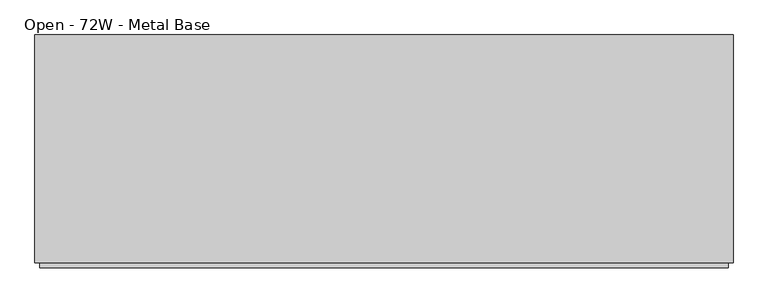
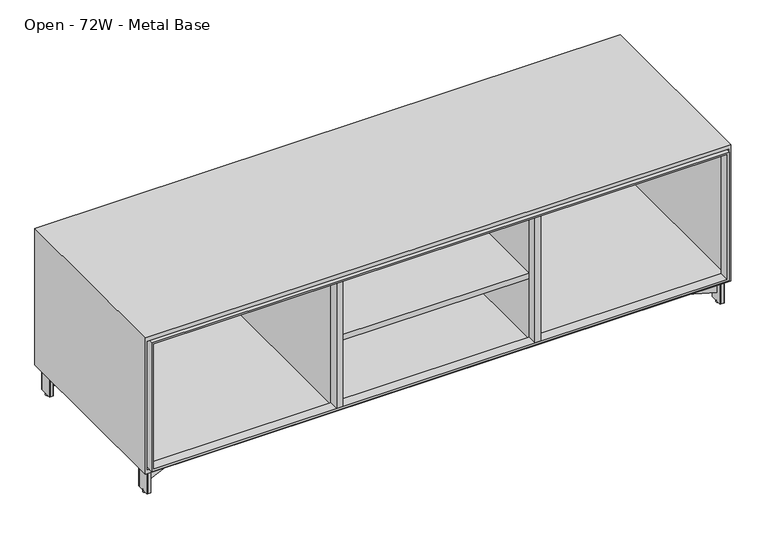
"""IFC4 building model written with IfcOpenShell, lengths in millimetres: furniture geometry, Steelcase Coalesse - Exponents - Storage - Credenza - 21H : Open - 72W - Metal Base."""

from ifc_helpers import new_model, si_unit, point, frame, frame_2d, origin, origin_with_axes, place, context, project, spatial, polyline, circle_curve, trimmed, segment, composite_curve, outline, extrude, faceted_brep, source, transform, mapped, element, save


def open_72w_metal_base_4dff3919(model_context):
    return source(origin(), model_context, "Body", "SolidModel", [
        faceted_brep([(6.35, 31.75, 520.7), (6.35, 31.75, 95.25), (6.35, 622.3, 95.25), (6.35, 622.3, 520.7), (1822.45, 622.3, 95.25), (1822.45, 622.3, 520.7), (1822.45, 31.75, 95.25), (1822.45, 31.75, 520.7), (0.0, 31.75, 82.55), (1828.8, 31.75, 82.55), (1828.8, 31.75, 533.4), (0.0, 31.75, 533.4), (1828.8, 628.65, 82.55), (1828.8, 628.65, 533.4), (0.0, 628.65, 82.55), (0.0, 628.65, 533.4)], [[[0, 1, 2, 3]], [[3, 2, 4, 5]], [[5, 4, 6, 7]], [[8, 9, 10, 11], [7, 6, 1, 0]], [[10, 9, 12, 13]], [[13, 12, 14, 15]], [[15, 14, 8, 11]], [[7, 0, 3, 5]], [[10, 13, 15, 11]], [[1, 6, 4, 2]], [[12, 9, 8, 14]]]),
        extrude(outline(composite_curve([segment(polyline([(1805.1506426, 615.95), (1814.322, 615.95)]), True, "CONTINUOUS"), segment(trimmed(circle_curve(frame_2d((1814.322, 614.172)), 1.778), [point((1814.322, 615.95))], [point((1816.1, 614.172))], False, "CARTESIAN"), True, "CONTINUOUS"), segment(polyline([(1816.1, 614.172), (1816.1, 572.9986)]), True, "CONTINUOUS"), segment(trimmed(circle_curve(frame_2d((1814.322, 572.9986)), 1.778), [point((1816.1, 572.9986))], [point((1814.322, 571.2206))], False, "CARTESIAN"), True, "CONTINUOUS"), segment(polyline([(1814.322, 571.2206), (1805.1948916, 571.2206)]), True, "CONTINUOUS"), segment(trimmed(circle_curve(frame_2d((1805.1948916, 573.0154916)), 1.7948916), [point((1805.1948916, 571.2206))], [point((1803.4, 573.0154916))], False, "CARTESIAN"), True, "CONTINUOUS"), segment(polyline([(1803.4, 573.0154916), (1803.4, 614.1993574)]), True, "CONTINUOUS"), segment(trimmed(circle_curve(frame_2d((1805.1506426, 614.1993574)), 1.7506426), [point((1803.4, 614.1993574))], [point((1805.1506426, 615.95))], False, "CARTESIAN"), True, "CONTINUOUS")], self_intersect=False)), frame((0.0, 0.0, 6.35), z_axis=(0.0, 0.0, 1.0), x_axis=(1.0, 0.0, 0.0)), (0.0, 0.0, 1.0), 73.4568),
        extrude(outline(composite_curve([segment(polyline([(1805.1506426, 88.9), (1814.322, 88.9)]), True, "CONTINUOUS"), segment(trimmed(circle_curve(frame_2d((1814.322, 87.122)), 1.778), [point((1814.322, 88.9))], [point((1816.1, 87.122))], False, "CARTESIAN"), True, "CONTINUOUS"), segment(polyline([(1816.1, 87.122), (1816.1, 45.9486)]), True, "CONTINUOUS"), segment(trimmed(circle_curve(frame_2d((1814.322, 45.9486)), 1.778), [point((1816.1, 45.9486))], [point((1814.322, 44.1706))], False, "CARTESIAN"), True, "CONTINUOUS"), segment(polyline([(1814.322, 44.1706), (1805.1948916, 44.1706)]), True, "CONTINUOUS"), segment(trimmed(circle_curve(frame_2d((1805.1948916, 45.9654916)), 1.7948916), [point((1805.1948916, 44.1706))], [point((1803.4, 45.9654916))], False, "CARTESIAN"), True, "CONTINUOUS"), segment(polyline([(1803.4, 45.9654916), (1803.4, 87.1493574)]), True, "CONTINUOUS"), segment(trimmed(circle_curve(frame_2d((1805.1506426, 87.1493574)), 1.7506426), [point((1803.4, 87.1493574))], [point((1805.1506426, 88.9))], False, "CARTESIAN"), True, "CONTINUOUS")], self_intersect=False)), frame((0.0, 0.0, 6.35), z_axis=(0.0, 0.0, 1.0), x_axis=(1.0, 0.0, 0.0)), (0.0, 0.0, 1.0), 73.4568),
        extrude(outline(composite_curve([segment(trimmed(circle_curve(frame_2d((1809.75, 593.5667033)), 6.35), [point((1809.75, 599.9167033))], [point((1809.75, 587.2167033))], False, "CARTESIAN"), True, "CONTINUOUS"), segment(trimmed(circle_curve(frame_2d((1809.75, 593.5667033)), 6.35), [point((1809.75, 587.2167033))], [point((1809.75, 599.9167033))], False, "CARTESIAN"), True, "CONTINUOUS")], self_intersect=False)), origin_with_axes(), (0.0, 0.0, 1.0), 6.35),
        extrude(outline(composite_curve([segment(trimmed(circle_curve(frame_2d((1809.75, 66.7867854)), 6.35), [point((1809.75, 73.1367854))], [point((1809.75, 60.4367854))], False, "CARTESIAN"), True, "CONTINUOUS"), segment(trimmed(circle_curve(frame_2d((1809.75, 66.7867854)), 6.35), [point((1809.75, 60.4367854))], [point((1809.75, 73.1367854))], False, "CARTESIAN"), True, "CONTINUOUS")], self_intersect=False)), origin_with_axes(), (0.0, 0.0, 1.0), 6.35),
        extrude(outline(polyline([(1270.0, 379.0696809), (1270.0, 277.4696809), (1168.4, 277.4696809), (1168.4, 379.0696809), (1270.0, 379.0696809)])), frame((0.0, 0.0, 79.8068), z_axis=(0.0, 0.0, 1.0), x_axis=(1.0, 0.0, 0.0)), (0.0, 0.0, 1.0), 2.7432),
        extrude(outline(polyline([(520.7, 1816.1), (520.7, 12.7), (95.25, 12.7), (95.25, 1816.1), (520.7, 1816.1)]), holes=[polyline([(514.35, 1809.75), (101.6, 1809.75), (101.6, 19.05), (514.35, 19.05), (514.35, 1809.75)])]), frame((0.0, 19.05, 0.0), z_axis=(0.0, 1.0, 0.0), x_axis=(0.0, 0.0, 1.0)), (0.0, 0.0, 1.0), 31.75),
        extrude(outline(composite_curve([segment(polyline([(1211.4256426, 349.25), (1226.947, 349.25)]), True, "CONTINUOUS"), segment(trimmed(circle_curve(frame_2d((1226.947, 347.472)), 1.778), [point((1226.947, 349.25))], [point((1228.725, 347.472))], False, "CARTESIAN"), True, "CONTINUOUS"), segment(polyline([(1228.725, 347.472), (1228.725, 312.928)]), True, "CONTINUOUS"), segment(trimmed(circle_curve(frame_2d((1226.947, 312.928)), 1.778), [point((1228.725, 312.928))], [point((1226.947, 311.15))], False, "CARTESIAN"), True, "CONTINUOUS"), segment(polyline([(1226.947, 311.15), (1211.4698916, 311.15)]), True, "CONTINUOUS"), segment(trimmed(circle_curve(frame_2d((1211.4698916, 312.9448916)), 1.7948916), [point((1211.4698916, 311.15))], [point((1209.675, 312.9448916))], False, "CARTESIAN"), True, "CONTINUOUS"), segment(polyline([(1209.675, 312.9448916), (1209.675, 347.4993574)]), True, "CONTINUOUS"), segment(trimmed(circle_curve(frame_2d((1211.4256426, 347.4993574)), 1.7506426), [point((1209.675, 347.4993574))], [point((1211.4256426, 349.25))], False, "CARTESIAN"), True, "CONTINUOUS")], self_intersect=False)), frame((0.0, 0.0, 6.35), z_axis=(0.0, 0.0, 1.0), x_axis=(1.0, 0.0, 0.0)), (0.0, 0.0, 1.0), 73.4568),
        extrude(outline(polyline([(1220.4800308, 345.280854), (1803.4, 598.591626), (1803.4, 577.8206777), (1233.5741031, 330.2), (1803.4, 82.5793223), (1803.4, 61.808374), (1220.777267, 314.9899805), (1227.2101738, 329.7934165), (1220.4800308, 345.280854)])), frame((0.0, 0.0, 34.925), z_axis=(0.0, 0.0, 1.0), x_axis=(1.0, 0.0, 0.0)), (0.0, 0.0, 1.0), 44.8818),
        extrude(outline(polyline([(1822.45, 520.7), (1720.85, 520.7), (1720.85, 622.3), (1822.45, 622.3), (1822.45, 520.7)])), frame((0.0, 0.0, 79.8068), z_axis=(0.0, 0.0, 1.0), x_axis=(1.0, 0.0, 0.0)), (0.0, 0.0, 1.0), 2.7432),
        extrude(outline(polyline([(1822.45, 139.7), (1822.45, 38.1), (1720.85, 38.1), (1720.85, 139.7), (1822.45, 139.7)])), frame((0.0, 0.0, 79.8068), z_axis=(0.0, 0.0, 1.0), x_axis=(1.0, 0.0, 0.0)), (0.0, 0.0, 1.0), 2.7432),
        extrude(outline(composite_curve([segment(trimmed(circle_curve(frame_2d((1219.0250692, 330.5590189)), 6.35), [point((1219.0250692, 336.9090189))], [point((1219.0250692, 324.2090189))], False, "CARTESIAN"), True, "CONTINUOUS"), segment(trimmed(circle_curve(frame_2d((1219.0250692, 330.5590189)), 6.35), [point((1219.0250692, 324.2090189))], [point((1219.0250692, 336.9090189))], False, "CARTESIAN"), True, "CONTINUOUS")], self_intersect=False)), origin_with_axes(), (0.0, 0.0, 1.0), 6.35),
        extrude(outline(composite_curve([segment(trimmed(circle_curve(frame_2d((23.6493574, 614.1993574)), 1.7506426), [point((23.6493574, 615.95))], [point((25.4, 614.1993574))], False, "CARTESIAN"), True, "CONTINUOUS"), segment(polyline([(25.4, 614.1993574), (25.4, 573.0154916)]), True, "CONTINUOUS"), segment(trimmed(circle_curve(frame_2d((23.6051084, 573.0154916)), 1.7948916), [point((25.4, 573.0154916))], [point((23.6051084, 571.2206))], False, "CARTESIAN"), True, "CONTINUOUS"), segment(polyline([(23.6051084, 571.2206), (14.478, 571.2206)]), True, "CONTINUOUS"), segment(trimmed(circle_curve(frame_2d((14.478, 572.9986)), 1.778), [point((14.478, 571.2206))], [point((12.7, 572.9986))], False, "CARTESIAN"), True, "CONTINUOUS"), segment(polyline([(12.7, 572.9986), (12.7, 614.172)]), True, "CONTINUOUS"), segment(trimmed(circle_curve(frame_2d((14.478, 614.172)), 1.778), [point((12.7, 614.172))], [point((14.478, 615.95))], False, "CARTESIAN"), True, "CONTINUOUS"), segment(polyline([(14.478, 615.95), (23.6493574, 615.95)]), True, "CONTINUOUS")], self_intersect=False)), frame((0.0, 0.0, 6.35), z_axis=(0.0, 0.0, 1.0), x_axis=(1.0, 0.0, 0.0)), (0.0, 0.0, 1.0), 73.4568),
        extrude(outline(composite_curve([segment(trimmed(circle_curve(frame_2d((23.6493574, 87.1493574)), 1.7506426), [point((23.6493574, 88.9))], [point((25.4, 87.1493574))], False, "CARTESIAN"), True, "CONTINUOUS"), segment(polyline([(25.4, 87.1493574), (25.4, 45.9654916)]), True, "CONTINUOUS"), segment(trimmed(circle_curve(frame_2d((23.6051084, 45.9654916)), 1.7948916), [point((25.4, 45.9654916))], [point((23.6051084, 44.1706))], False, "CARTESIAN"), True, "CONTINUOUS"), segment(polyline([(23.6051084, 44.1706), (14.478, 44.1706)]), True, "CONTINUOUS"), segment(trimmed(circle_curve(frame_2d((14.478, 45.9486)), 1.778), [point((14.478, 44.1706))], [point((12.7, 45.9486))], False, "CARTESIAN"), True, "CONTINUOUS"), segment(polyline([(12.7, 45.9486), (12.7, 87.122)]), True, "CONTINUOUS"), segment(trimmed(circle_curve(frame_2d((14.478, 87.122)), 1.778), [point((12.7, 87.122))], [point((14.478, 88.9))], False, "CARTESIAN"), True, "CONTINUOUS"), segment(polyline([(14.478, 88.9), (23.6493574, 88.9)]), True, "CONTINUOUS")], self_intersect=False)), frame((0.0, 0.0, 6.35), z_axis=(0.0, 0.0, 1.0), x_axis=(1.0, 0.0, 0.0)), (0.0, 0.0, 1.0), 73.4568),
        extrude(outline(composite_curve([segment(trimmed(circle_curve(frame_2d((617.3743574, 347.4993574)), 1.7506426), [point((617.3743574, 349.25))], [point((619.125, 347.4993574))], False, "CARTESIAN"), True, "CONTINUOUS"), segment(polyline([(619.125, 347.4993574), (619.125, 312.9448916)]), True, "CONTINUOUS"), segment(trimmed(circle_curve(frame_2d((617.3301084, 312.9448916)), 1.7948916), [point((619.125, 312.9448916))], [point((617.3301084, 311.15))], False, "CARTESIAN"), True, "CONTINUOUS"), segment(polyline([(617.3301084, 311.15), (601.853, 311.15)]), True, "CONTINUOUS"), segment(trimmed(circle_curve(frame_2d((601.853, 312.928)), 1.778), [point((601.853, 311.15))], [point((600.075, 312.928))], False, "CARTESIAN"), True, "CONTINUOUS"), segment(polyline([(600.075, 312.928), (600.075, 347.472)]), True, "CONTINUOUS"), segment(trimmed(circle_curve(frame_2d((601.853, 347.472)), 1.778), [point((600.075, 347.472))], [point((601.853, 349.25))], False, "CARTESIAN"), True, "CONTINUOUS"), segment(polyline([(601.853, 349.25), (617.3743574, 349.25)]), True, "CONTINUOUS")], self_intersect=False)), frame((0.0, 0.0, 6.35), z_axis=(0.0, 0.0, 1.0), x_axis=(1.0, 0.0, 0.0)), (0.0, 0.0, 1.0), 73.4568),
        extrude(outline(polyline([(608.3199692, 345.280854), (601.5898262, 329.7934165), (608.022733, 314.9899805), (25.4, 61.808374), (25.4, 82.5793223), (595.2258969, 330.2), (25.4, 577.8206777), (25.4, 598.591626), (608.3199692, 345.280854)])), frame((0.0, 0.0, 34.925), z_axis=(0.0, 0.0, 1.0), x_axis=(1.0, 0.0, 0.0)), (0.0, 0.0, 1.0), 44.8818),
        extrude(outline(polyline([(6.35, 520.7), (6.35, 622.3), (107.95, 622.3), (107.95, 520.7), (6.35, 520.7)])), frame((0.0, 0.0, 79.8068), z_axis=(0.0, 0.0, 1.0), x_axis=(1.0, 0.0, 0.0)), (0.0, 0.0, 1.0), 2.7432),
        extrude(outline(polyline([(6.35, 139.7), (107.95, 139.7), (107.95, 38.1), (6.35, 38.1), (6.35, 139.7)])), frame((0.0, 0.0, 79.8068), z_axis=(0.0, 0.0, 1.0), x_axis=(1.0, 0.0, 0.0)), (0.0, 0.0, 1.0), 2.7432),
        extrude(outline(polyline([(558.8, 379.0696809), (660.4, 379.0696809), (660.4, 277.4696809), (558.8, 277.4696809), (558.8, 379.0696809)])), frame((0.0, 0.0, 79.8068), z_axis=(0.0, 0.0, 1.0), x_axis=(1.0, 0.0, 0.0)), (0.0, 0.0, 1.0), 2.7432),
        extrude(outline(composite_curve([segment(trimmed(circle_curve(frame_2d((19.05, 593.5667033)), 6.35), [point((12.7, 593.5667033))], [point((25.4, 593.5667033))], False, "CARTESIAN"), True, "CONTINUOUS"), segment(trimmed(circle_curve(frame_2d((19.05, 593.5667033)), 6.35), [point((25.4, 593.5667033))], [point((12.7, 593.5667033))], False, "CARTESIAN"), True, "CONTINUOUS")], self_intersect=False)), origin_with_axes(), (0.0, 0.0, 1.0), 6.35),
        extrude(outline(composite_curve([segment(trimmed(circle_curve(frame_2d((19.05, 66.7867854)), 6.35), [point((12.7, 66.7867854))], [point((25.4, 66.7867854))], False, "CARTESIAN"), True, "CONTINUOUS"), segment(trimmed(circle_curve(frame_2d((19.05, 66.7867854)), 6.35), [point((25.4, 66.7867854))], [point((12.7, 66.7867854))], False, "CARTESIAN"), True, "CONTINUOUS")], self_intersect=False)), origin_with_axes(), (0.0, 0.0, 1.0), 6.35),
        extrude(outline(composite_curve([segment(trimmed(circle_curve(frame_2d((609.7749308, 330.5590189)), 6.35), [point((603.4249308, 330.5590189))], [point((616.1249308, 330.5590189))], False, "CARTESIAN"), True, "CONTINUOUS"), segment(trimmed(circle_curve(frame_2d((609.7749308, 330.5590189)), 6.35), [point((616.1249308, 330.5590189))], [point((603.4249308, 330.5590189))], False, "CARTESIAN"), True, "CONTINUOUS")], self_intersect=False)), origin_with_axes(), (0.0, 0.0, 1.0), 6.35),
        extrude(outline(polyline([(0.0, -19.05), (0.0, 0.0), (31.75, 0.0), (31.75, -19.05), (0.0, -19.05)])), frame((1209.675, 19.05, 101.6), z_axis=(3.1477043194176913e-12, 0.0, 1.0), x_axis=(0.0, 1.0, 0.0)), (0.0, 0.0, 1.0), 412.75),
        extrude(outline(polyline([(0.0, -19.05), (0.0, 0.0), (31.75, 0.0), (31.75, -19.05), (0.0, -19.05)])), frame((590.55, 19.05, 101.6), z_axis=(3.3608671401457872e-12, 0.0, 1.0), x_axis=(0.0, 1.0, 0.0)), (0.0, 0.0, 1.0), 412.75),
        extrude(outline(polyline([(1209.675, 609.6), (1228.725, 609.6), (1228.725, 50.8), (1209.675, 50.8), (1209.675, 609.6)])), frame((0.0, 0.0, 95.25), z_axis=(0.0, 0.0, 1.0), x_axis=(1.0, 0.0, 0.0)), (0.0, 0.0, 1.0), 425.45),
        extrude(outline(polyline([(1209.675, 50.8), (609.6, 50.8), (609.6, 609.6), (1209.675, 609.6), (1209.675, 50.8)])), frame((0.0, 0.0, 295.275), z_axis=(0.0, 0.0, 1.0), x_axis=(1.0, 0.0, 0.0)), (0.0, 0.0, 1.0), 19.05),
        extrude(outline(polyline([(590.55, 609.6), (609.6, 609.6), (609.6, 50.8), (590.55, 50.8), (590.55, 609.6)])), frame((0.0, 0.0, 95.25), z_axis=(0.0, 0.0, 1.0), x_axis=(1.0, 0.0, 0.0)), (0.0, 0.0, 1.0), 425.45),
    ])


if __name__ == "__main__":
    model = new_model("IFC4")
    model_context = context("Model", 3, world=origin())
    ifc_project = project(units=[si_unit("LENGTHUNIT", "METRE", prefix="MILLI")], contexts=[model_context])
    site = spatial("IfcSite", under=ifc_project)
    building = spatial("IfcBuilding", under=site)
    placement = place(None, origin())
    open_72w_metal_base_shape = open_72w_metal_base_4dff3919(model_context)
    element("IfcFurniture", 1, ObjectType="Steelcase Coalesse - Exponents - Storage - Credenza - 21H : Open - 72W - Metal Base", at=placement, inside=building, context=model_context, shape_type="MappedRepresentation", body=[
        mapped(open_72w_metal_base_shape, transform((0.0, 0.0, 0.0), x_axis=(1.0, 0.0, 0.0), y_axis=(0.0, 1.0, 0.0), z_axis=(0.0, 0.0, 1.0))),
    ])
    save(model, "model.ifc")
